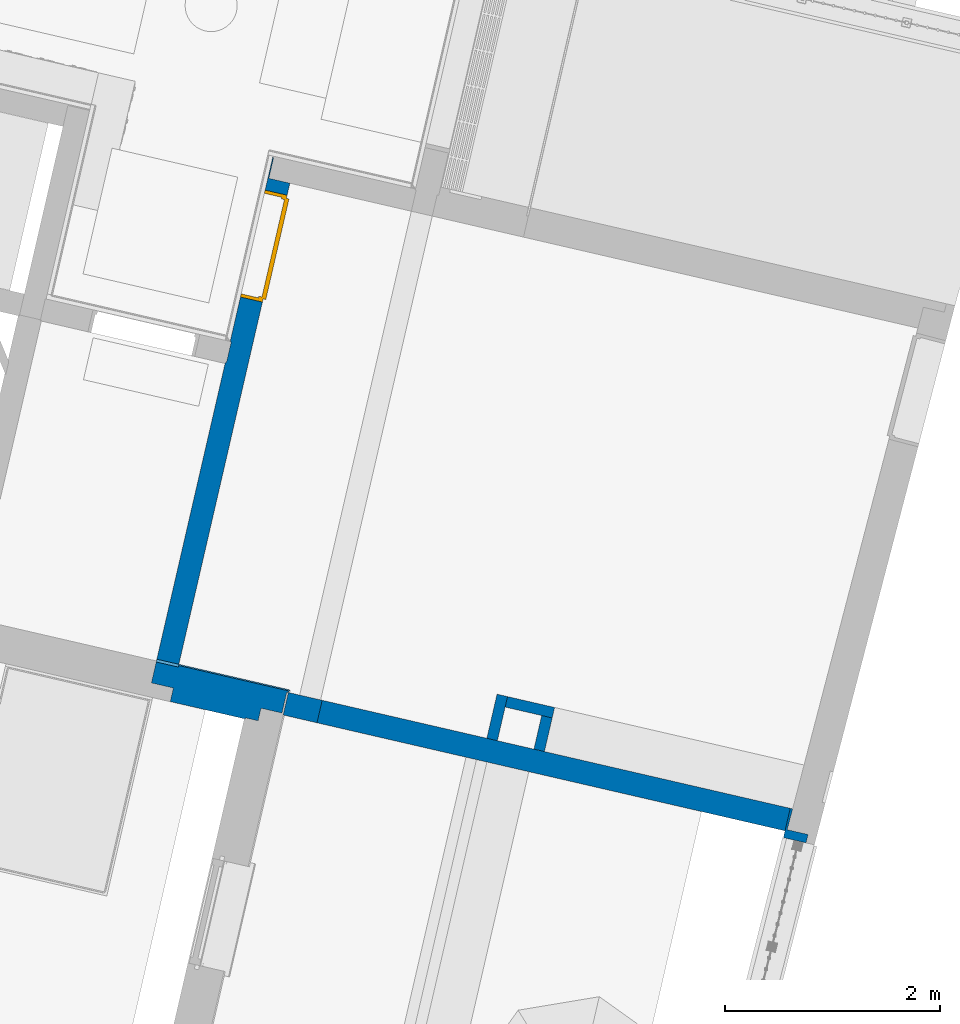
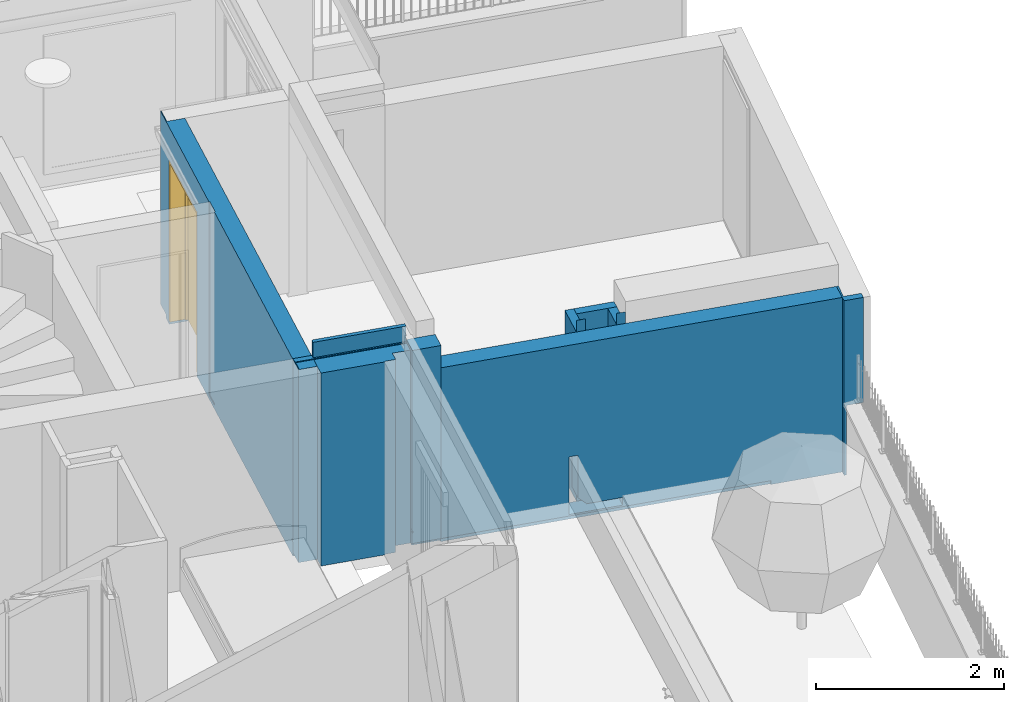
# One storey, part 55 of 119: 8 walls, 1 door, 1 opening.
"""IFC2X3 building model written with IfcOpenShell, lengths in metres."""

from ifc_helpers import new_model, entity, si_unit, converted_unit, derived_unit, money_unit, direction, frame, origin_with_axes, place, context, subcontext, project, spatial, faceted_brep, material, material_list, type_object, element, fill, save


model = new_model("IFC2X3")

# Units and contexts
model_context = context("Model", 3, precision=1e-05, world=origin_with_axes(), true_north=direction((0.0, 1.0)))
body_context = subcontext(model_context, "Body", "Model", "MODEL_VIEW")
ifc_project = project(units=[si_unit("LENGTHUNIT", "METRE"), si_unit("AREAUNIT", "SQUARE_METRE"), si_unit("VOLUMEUNIT", "CUBIC_METRE"), converted_unit("PLANEANGLEUNIT", "DEGREE", entity("IfcPlaneAngleMeasure", 0.0174532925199), si_unit("PLANEANGLEUNIT", "RADIAN"), dimensions=[0, 0, 0, 0, 0, 0, 0]), si_unit("SOLIDANGLEUNIT", "STERADIAN"), money_unit("EUR"), converted_unit("TIMEUNIT", "Year", entity("IfcTimeMeasure", 31556926.0), si_unit("TIMEUNIT", "SECOND"), dimensions=[0, 0, 1, 0, 0, 0, 0]), si_unit("MASSUNIT", "GRAM", prefix="KILO"), si_unit("THERMODYNAMICTEMPERATUREUNIT", "DEGREE_CELSIUS"), si_unit("LUMINOUSINTENSITYUNIT", "LUMEN"), si_unit("ENERGYUNIT", "JOULE", prefix="MEGA"), derived_unit("THERMALCONDUCTANCEUNIT", [(si_unit("POWERUNIT", "WATT"), 1), (si_unit("LENGTHUNIT", "METRE"), -1), (si_unit("THERMODYNAMICTEMPERATUREUNIT", "KELVIN"), -1)]), derived_unit("SPECIFICHEATCAPACITYUNIT", [(si_unit("ENERGYUNIT", "JOULE"), 1), (si_unit("MASSUNIT", "GRAM", prefix="KILO"), -1), (si_unit("THERMODYNAMICTEMPERATUREUNIT", "KELVIN"), -1)]), derived_unit("MASSDENSITYUNIT", [(si_unit("MASSUNIT", "GRAM", prefix="KILO"), 1), (si_unit("VOLUMEUNIT", "CUBIC_METRE"), -1)])], contexts=[model_context])

# Site, building, storey
site_placement = place(None, origin_with_axes())
site = spatial("IfcSite", under=ifc_project, at=site_placement, Name="Site", CompositionType="ELEMENT")
building_placement = place(site_placement, origin_with_axes())
building = spatial("IfcBuilding", under=site, at=building_placement, Name="Bâtiment", CompositionType="ELEMENT")
storey_placement = place(building_placement, origin_with_axes())
storey = spatial("IfcBuildingStorey", under=building, at=storey_placement, Name="Rez-de-chaussée", CompositionType="ELEMENT", Elevation=0.0)

# Walls
ifc_material_1 = material(Name="Parpaing 10cm")
wall_type_1 = type_object("IfcWallType", Name="Parpaing 10cm 100", PredefinedType="USERDEFINED")
wall_1_placement = place(storey_placement, frame((-3.51931623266, -10.7568452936, 0.0), z_axis=(0.0, 0.0, 1.0), x_axis=(0.224876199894, 0.974387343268, 0.0)))
element("IfcWall", 1, at=wall_1_placement, inside=storey, type_object=wall_type_1, material=ifc_material_1, Name="Parpaing 10x50x20", ObjectType="PARTITIONING", context=body_context, shape_type="Brep", body=[
    faceted_brep([(0.214999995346, -0.1, 2.37), (0.215000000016, -0.1, 0.02), (0.636364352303, -0.1, 0.02), (0.636364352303, -0.1, 2.22), (0.215343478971, -0.1, 2.22), (0.215343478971, -0.1, 2.37), (0.214999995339, 0.0, 2.37), (0.215000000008, 0.0, 0.02), (0.636364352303, 0.0, 0.02), (0.636364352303, 0.0, 2.22), (0.215323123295, 0.0, 2.22), (0.215323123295, 0.0, 2.37)], [[[0, 1, 2, 3, 4, 5]], [[6, 7, 1, 0]], [[7, 8, 2, 1]], [[3, 2, 8, 9]], [[10, 4, 3, 9]], [[10, 11, 5, 4]], [[0, 5, 11, 6]], [[9, 8, 7, 6, 11, 10]]]),
])
wall_2_placement = place(storey_placement, frame((-3.37621303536, -10.136779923, 0.0), z_axis=(0.0, 0.0, 1.0), x_axis=(0.974387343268, -0.224876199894, 0.0)))
element("IfcWall", 2, at=wall_2_placement, inside=storey, type_object=wall_type_1, material=ifc_material_1, Name="Parpaing 10x50x20", ObjectType="PARTITIONING", context=body_context, shape_type="Brep", body=[
    faceted_brep([(0.549427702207, -0.1, 2.22), (0.549427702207, -0.1, 0.02), (0.549427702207, 0.0, 0.02), (0.549427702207, 0.0, 2.22), (0.1, -0.1, 2.22), (0.1, -0.1, 0.02), (0.1, 0.0, 0.02), (0.1, 0.0, 2.22)], [[[0, 1, 2, 3]], [[4, 5, 1, 0]], [[5, 6, 2, 1]], [[3, 2, 6, 7]], [[4, 0, 3, 7]], [[7, 6, 5, 4]]]),
])
wall_3_placement = place(storey_placement, frame((-2.84085763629, -10.2603331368, 0.0), z_axis=(0.0, 0.0, 1.0), x_axis=(-0.224876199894, -0.974387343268, 0.0)))
element("IfcWall", 3, at=wall_3_placement, inside=storey, type_object=wall_type_1, material=ifc_material_1, Name="Parpaing 10x50x20", ObjectType="PARTITIONING", context=body_context, shape_type="Brep", body=[
    faceted_brep([(0.421022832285, 0.0, 2.37), (0.421022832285, 0.0, 0.02), (0.1, 0.0, 0.02), (0.1, 0.0, 2.22), (0.42092938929, 0.0, 2.22), (0.42092938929, 0.0, 2.37), (0.421022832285, -0.1, 2.37), (0.421022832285, -0.1, 0.02), (0.1, -0.1, 0.02), (0.1, -0.1, 2.22), (0.420949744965, -0.1, 2.22), (0.420949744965, -0.1, 2.37)], [[[0, 1, 2, 3, 4, 5]], [[6, 7, 1, 0]], [[7, 8, 2, 1]], [[3, 2, 8, 9]], [[10, 4, 3, 9]], [[10, 11, 5, 4]], [[0, 5, 11, 6]], [[9, 8, 7, 6, 11, 10]]]),
])
ifc_material_2 = material(Name="Finition int - Plaque de plâtre")
ifc_material_3 = material(Name="Isolation - Polystyrène extrudé")
ifc_material_4 = material(Name="Bloc ELITHERM")
ifc_material_5 = material(Name="Mortier")
ifc_material_6 = material(Name="Béton cellulaire")
ifc_material_7 = material(Name="Etanchéité - Bitume")
ifc_material_8 = material(Name="Finition ext - Crépis")
ifc_material_9 = material(Name="Métal - Aluminium")
ifc_material_list_1 = material_list([ifc_material_2, ifc_material_3, ifc_material_4, ifc_material_5, ifc_material_6, ifc_material_7, ifc_material_8, ifc_material_9])
wall_type_2 = type_object("IfcWallType", Name="Mur ALKERN + planelle 21 TERRASSE RDC 356 x 2720", PredefinedType="USERDEFINED")
wall_4_placement = place(storey_placement, frame((-5.29603734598, -10.0953606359, 0.0), z_axis=(0.0, 0.0, 1.0), x_axis=(-0.974387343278, 0.224876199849, 0.0)))
element("IfcWall", 4, at=wall_4_placement, inside=storey, type_object=wall_type_2, material=ifc_material_list_1, Name="Mue bloc ALKERN isolé", ObjectType="SOLIDWALL", context=body_context, shape_type="Brep", body=[
    faceted_brep([(1.06699998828, 0.350000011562, 0.176532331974), (1.06699998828, 0.350000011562, 0.207793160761), (1.06699998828, 0.350000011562, 2.50955), (0.35000001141, 0.350000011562, 2.50955001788), (0.35000001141, 0.350000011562, 0.207793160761), (0.35000001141, 0.350000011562, 0.176532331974), (0.35000001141, 0.350000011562, 0.169414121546), (0.35000001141, 0.350000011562, 0.160000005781), (0.35000001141, 0.350000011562, 0.133633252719), (0.35000001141, 0.350000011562, 0.0), (1.06699998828, 0.350000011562, 0.0), (1.06699998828, 0.350000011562, 0.133633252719), (1.06699998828, 0.350000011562, 0.160000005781), (1.06699998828, 0.350000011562, 0.169414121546), (1.06699998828, 0.359999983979, 0.176532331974), (1.06699998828, 0.359999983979, 0.207793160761), (1.06699998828, 0.359999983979, 2.50955), (0.350000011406, 0.359999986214, 2.50955001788), (0.350000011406, 0.359999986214, 0.207793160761), (0.350000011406, 0.359999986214, 0.176532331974), (0.350000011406, 0.359999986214, 0.169414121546), (0.350000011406, 0.359999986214, 0.160000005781), (0.350000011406, 0.359999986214, 0.133633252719), (0.350000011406, 0.359999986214, 0.0), (1.06699998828, 0.359999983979, 0.0), (1.06699998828, 0.359999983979, 0.133633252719), (1.06699998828, 0.359999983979, 0.160000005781), (1.06699998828, 0.359999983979, 0.169414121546)], [[[0, 1, 2, 3, 4, 5, 6, 7, 8, 9, 10, 11, 12, 13]], [[14, 15, 1, 0]], [[15, 16, 2, 1]], [[3, 2, 16, 17]], [[3, 17, 18, 4]], [[18, 19, 5, 4]], [[5, 19, 20, 6]], [[21, 7, 6, 20]], [[21, 22, 8, 7]], [[9, 8, 22, 23]], [[9, 23, 24, 10]], [[11, 10, 24, 25]], [[25, 26, 12, 11]], [[27, 13, 12, 26]], [[13, 27, 14, 0]], [[17, 16, 15, 14, 27, 26, 25, 24, 23, 22, 21, 20, 19, 18]]]),
    faceted_brep([(1.06699998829, 0.22999997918, 0.176532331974), (1.06699998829, 0.22999997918, 0.207793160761), (1.06699998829, 0.22999997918, 2.50955), (0.22999999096, 0.22999997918, 2.50955001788), (0.22999999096, 0.22999997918, 0.207793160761), (0.22999999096, 0.22999997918, 0.176532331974), (0.22999999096, 0.22999997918, 0.169414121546), (0.22999999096, 0.22999997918, 0.160000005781), (0.22999999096, 0.22999997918, 0.133633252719), (0.22999999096, 0.22999997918, 0.0), (1.06699998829, 0.22999997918, 0.0), (1.06699998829, 0.22999997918, 0.133633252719), (1.06699998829, 0.22999997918, 0.160000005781), (1.06699998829, 0.22999997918, 0.169414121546), (1.06699998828, 0.350000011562, 0.176532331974), (1.06699998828, 0.350000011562, 0.207793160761), (1.06699998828, 0.350000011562, 2.50955), (0.229999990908, 0.350000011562, 2.50955001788), (0.229999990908, 0.350000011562, 0.207793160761), (0.229999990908, 0.350000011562, 0.176532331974), (0.229999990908, 0.350000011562, 0.169414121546), (0.229999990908, 0.350000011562, 0.160000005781), (0.229999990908, 0.350000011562, 0.133633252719), (0.229999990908, 0.350000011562, 0.0), (1.06699998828, 0.350000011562, 0.0), (1.06699998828, 0.350000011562, 0.133633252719), (1.06699998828, 0.350000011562, 0.160000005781), (1.06699998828, 0.350000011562, 0.169414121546)], [[[0, 1, 2, 3, 4, 5, 6, 7, 8, 9, 10, 11, 12, 13]], [[14, 15, 1, 0]], [[15, 16, 2, 1]], [[3, 2, 16, 17]], [[3, 17, 18, 4]], [[18, 19, 5, 4]], [[19, 20, 6, 5]], [[6, 20, 21, 7]], [[7, 21, 22, 8]], [[9, 8, 22, 23]], [[23, 24, 10, 9]], [[11, 10, 24, 25]], [[11, 25, 26, 12]], [[12, 26, 27, 13]], [[27, 14, 0, 13]], [[17, 16, 15, 14, 27, 26, 25, 24, 23, 22, 21, 20, 19, 18]]]),
    faceted_brep([(1.2769999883, 0.0979999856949, 2.50955001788), (0.0299999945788, 0.0979999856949, 2.50955), (0.0299999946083, 0.03, 2.50955), (1.2769999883, 0.03, 2.50955001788), (1.27699998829, 0.229999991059, 2.50955001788), (0.0299999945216, 0.229999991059, 2.50955), (0.0300000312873, 0.0310453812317, 0.207793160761), (0.0300000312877, 0.03, 0.207793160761), (0.030000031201, 0.229999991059, 0.207793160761), (1.2769999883, 0.03, 0.207793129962), (1.2769999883, 0.03, 0.0), (1.27699998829, 0.229999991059, 0.0), (1.2769999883, 0.0310453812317, 0.207793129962), (1.2769999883, 0.0310453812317, 0.169727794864), (1.2769999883, 0.03, 0.169414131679), (1.2769999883, 0.0300000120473, 0.160000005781), (0.0310453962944, 0.229999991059, 0.207793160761), (0.0300000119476, 0.229999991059, 0.0), (0.0300000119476, 0.229999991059, 0.133633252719), (0.0300000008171, 0.229999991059, 0.160000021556), (0.0299999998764, 0.229999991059, 0.169414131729), (0.0310453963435, 0.229999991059, 0.169727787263), (0.0310453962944, 0.229999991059, 0.176532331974), (0.0310453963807, 0.0310453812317, 0.207793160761), (0.0300000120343, 0.03, 0.0), (0.0310453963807, 0.0310453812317, 0.176532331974), (0.0310453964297, 0.0310453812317, 0.169727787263), (0.0299999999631, 0.03, 0.169414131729), (0.0300000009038, 0.0300000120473, 0.160000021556), (0.0300000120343, 0.03, 0.133633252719)], [[[0, 1, 2, 3]], [[4, 5, 1, 0]], [[6, 7, 2, 1, 5, 8]], [[3, 2, 7, 9]], [[10, 11, 4, 0, 3, 9, 12, 13, 14, 15]], [[16, 8, 5, 4, 11, 17, 18, 19, 20, 21, 22]], [[9, 7, 6, 23, 12]], [[23, 6, 8, 16]], [[11, 10, 24, 17]], [[13, 12, 23, 25, 26]], [[26, 27, 14, 13]], [[14, 27, 28, 15]], [[10, 15, 28, 29, 24]], [[18, 17, 24, 29]], [[29, 28, 19, 18]], [[27, 20, 19, 28]], [[20, 27, 26, 21]], [[21, 26, 25, 22]], [[16, 22, 25, 23]]]),
    faceted_brep([(0.0299999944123, 0.098, 2.51999999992), (0.0299999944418, 0.03, 2.51999999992), (1.2769999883, 0.03, 2.52), (1.2769999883, 0.098, 2.52), (0.0299999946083, 0.03, 2.50955), (0.0299999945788, 0.098, 2.50955), (1.2769999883, 0.03, 2.50955), (1.2769999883, 0.098, 2.50955)], [[[0, 1, 2, 3]], [[4, 1, 0, 5]], [[1, 4, 6, 2]], [[7, 3, 2, 6]], [[5, 0, 3, 7]], [[4, 5, 7, 6]]]),
    faceted_brep([(0.0299999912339, 0.0780000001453, 2.72), (0.0299999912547, 0.03, 2.72), (1.0669999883, 0.03, 2.72000000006), (1.0669999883, 0.0780000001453, 2.72000000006), (0.0299999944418, 0.03, 2.51999999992), (0.029999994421, 0.0780000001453, 2.51999999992), (1.0669999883, 0.03, 2.52), (1.0669999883, 0.0780000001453, 2.52)], [[[0, 1, 2, 3]], [[4, 1, 0, 5]], [[1, 4, 6, 2]], [[7, 3, 2, 6]], [[5, 0, 3, 7]], [[4, 5, 7, 6]]]),
    faceted_brep([(0.0199999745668, 0.029999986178, 0.005), (0.0199999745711, 0.02, 0.005), (0.0199999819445, 0.02, 0.133633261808), (0.0199999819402, 0.0300000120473, 0.133633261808), (1.0669999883, 0.02, 0.005), (1.0669999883, 0.0299999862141, 0.005), (1.06699998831, 0.02, 0.133633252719), (1.26699998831, 0.02, 0.133633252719), (1.27699998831, 0.02, 0.133633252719), (1.27699998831, 0.02, 0.160000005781), (0.0199999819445, 0.02, 0.160000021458), (0.0199999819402, 0.0300000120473, 0.160000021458), (1.2769999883, 0.0300000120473, 0.160000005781), (1.2769999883, 0.0300000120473, 0.133633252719), (1.2669999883, 0.0300000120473, 0.133633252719), (1.0669999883, 0.0300000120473, 0.133633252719)], [[[0, 1, 2, 3]], [[4, 1, 0, 5]], [[1, 4, 6, 7, 8, 9, 10, 2]], [[3, 2, 10, 11]], [[5, 0, 3, 11, 12, 13, 14, 15]], [[4, 5, 15, 6]], [[14, 7, 6, 15]], [[8, 7, 14, 13]], [[9, 8, 13, 12]], [[12, 11, 10, 9]]]),
    faceted_brep([(1.06699998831, 0.0149999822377, 2.51), (0.0150000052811, 0.0150000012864, 2.51), (0.0150000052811, 0.0150000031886, 0.176532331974), (1.06699998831, 0.0150000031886, 0.176532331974), (0.0150000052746, 0.0299999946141, 2.51), (1.0669999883, 0.0299999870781, 2.51), (0.0150000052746, 0.0300000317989, 0.176532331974), (1.0669999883, 0.0300000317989, 0.176532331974)], [[[0, 1, 2, 3]], [[4, 1, 0, 5]], [[1, 4, 6, 2]], [[6, 7, 3, 2]], [[5, 0, 3, 7]], [[4, 5, 7, 6]]]),
    faceted_brep([(0.0300000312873, 0.0310453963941, 0.207793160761), (0.0300000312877, 0.03, 0.207793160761), (1.2769999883, 0.03, 0.207793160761), (1.2769999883, 0.0310453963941, 0.207793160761), (0.0300000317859, 0.0300000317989, 0.176532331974), (0.0300000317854, 0.0310453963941, 0.176532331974), (1.2769999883, 0.0300000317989, 0.176532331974), (1.2769999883, 0.03, 0.170774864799), (1.27699998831, 0.0035607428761, 0.162931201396), (1.27699998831, 0.0035607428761, 0.133633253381), (1.27699998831, 0.00479482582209, 0.133633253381), (1.27699998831, 0.00479482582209, 0.161852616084), (1.2769999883, 0.03, 0.169414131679), (1.2769999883, 0.0310453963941, 0.169727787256), (0.0264704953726, 0.0310453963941, 0.169727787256), (0.0299999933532, 0.0310453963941, 0.170774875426), (0.0299999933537, 0.03, 0.170774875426), (0.00356072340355, 0.0035607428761, 0.162931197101), (0.00356072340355, 0.0035607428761, 0.133633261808), (0.00356072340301, 0.00479482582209, 0.133633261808), (0.00356072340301, 0.00479482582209, 0.161852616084), (0.0254132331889, 0.03, 0.169414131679), (0.00356072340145, 0.00839011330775, 0.162931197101)], [[[0, 1, 2, 3]], [[4, 1, 0, 5]], [[1, 4, 6, 2]], [[6, 7, 8, 9, 10, 11, 12, 13, 3, 2]], [[5, 0, 3, 13, 14, 15]], [[4, 5, 15, 16]], [[16, 7, 6, 4]], [[17, 8, 7, 16]], [[18, 9, 8, 17]], [[19, 10, 9, 18]], [[20, 11, 10, 19]], [[21, 12, 11, 20, 22]], [[14, 13, 12, 21]], [[22, 17, 16, 15, 14, 21]], [[19, 18, 17, 22, 20]]]),
])

# Wall, opening, door
ifc_material_10 = material(Name="Béton")
ifc_material_11 = material(Name="Finition int - Enduit plâtre")
ifc_material_list_2 = material_list([ifc_material_10, ifc_material_11])
wall_type_3 = type_object("IfcWallType", Name="2 - Murs Béton 20 + Enduit 1 Face  210", PredefinedType="USERDEFINED")
wall_5_placement = place(storey_placement, frame((-5.30352687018, -5.382979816, -0.05), z_axis=(0.0, 0.0, 1.0), x_axis=(-0.224876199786, -0.974387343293, 0.0)))
wall_5 = element("IfcWall", 5, at=wall_5_placement, inside=storey, type_object=wall_type_3, material=ifc_material_list_2, Name="M_Ext-009", ObjectType="SOLIDWALL", context=body_context, shape_type="Brep", body=[
    faceted_brep([(4.81999999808, -0.2, 2.55955001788), (4.81999999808, -0.2, 2.56), (4.68800001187, -0.2, 2.56), (4.68800001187, -0.2, 2.55955), (4.8199999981, 0.0, 2.55955001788), (4.8199999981, 0.0, 2.56), (4.68800001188, 0.0, 2.56), (4.68800001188, 0.0, 2.55955)], [[[0, 1, 2, 3]], [[1, 0, 4, 5]], [[2, 1, 5, 6]], [[2, 6, 7, 3]], [[0, 3, 7, 4]], [[5, 4, 7, 6]]]),
    faceted_brep([(1.13525391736, 1.13612674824e-09, 0.055), (1.13525391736, -2.3956818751e-09, 2.135), (0.115253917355, -2.97208480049e-09, 2.135), (0.115253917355, 0.0, 0.055), (0.115253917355, 0.0, 0.0), (0.0, 0.0, 0.0), (0.0, 0.0, 0.05), (0.0, 0.0, 2.56), (4.62000001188, 0.0, 2.56), (4.62000001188, 0.0, 2.55955), (4.62000001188, 0.0, 0.257793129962), (4.62000004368, 0.0, 0.226532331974), (4.62000001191, 0.0, 0.22077486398), (4.61541324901, 0.0, 0.219414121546), (4.59356075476, 0.0, 0.212931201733), (4.59356075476, 0.0, 0.210000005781), (4.59356075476, 0.0, 0.183633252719), (4.59479485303, 0.0, 0.183633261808), (4.61000001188, 0.0, 0.183633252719), (4.62000002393, 0.0, 0.183633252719), (4.62000001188, 0.0, 0.05), (4.61946847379, 2.68553377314e-07, 0.05), (4.6194685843, 0.0, 0.0), (1.13525391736, 1.13612630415e-09, 0.0), (1.13525391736, -0.2, 0.055), (1.13525391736, -0.2, 2.135), (0.115253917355, -0.2, 2.135), (0.115253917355, -0.2, 0.055), (0.11525391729, -0.2, 0.0), (0.0, -0.2, 0.0), (0.0, -0.2, 0.05), (0.0, -0.2, 2.56), (4.62000001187, -0.2, 2.56), (4.62000001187, -0.2, 2.55955), (4.62000001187, -0.2, 0.257793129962), (4.62000004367, -0.2, 0.226532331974), (4.6200000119, -0.2, 0.22077486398), (4.615413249, -0.2, 0.219414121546), (4.59356075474, -0.2, 0.212931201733), (4.59356075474, -0.2, 0.210000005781), (4.59356075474, -0.2, 0.183633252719), (4.59479485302, -0.2, 0.183633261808), (4.61000001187, -0.2, 0.183633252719), (4.62000002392, -0.2, 0.183633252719), (4.62000001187, -0.2, 0.05), (4.62000001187, -0.168800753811, 0.05), (4.62000001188, -0.00129151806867, 0.05), (4.61999999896, -0.00129148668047, 0.0), (1.13525391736, -0.2, 0.0), (4.61999999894, -0.168821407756, 0.0), (4.61998046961, -0.2, 0.0), (4.61998046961, -0.2, 0.05)], [[[0, 1, 2, 3, 4, 5, 6, 7, 8, 9, 10, 11, 12, 13, 14, 15, 16, 17, 18, 19, 20, 21, 22, 23]], [[1, 0, 24, 25]], [[2, 1, 25, 26]], [[3, 2, 26, 27]], [[3, 27, 28, 4]], [[28, 29, 5, 4]], [[29, 30, 6, 5]], [[30, 31, 7, 6]], [[8, 7, 31, 32]], [[8, 32, 33, 9]], [[9, 33, 34, 10]], [[11, 10, 34, 35]], [[35, 36, 12, 11]], [[36, 37, 13, 12]], [[38, 14, 13, 37]], [[39, 15, 14, 38]], [[40, 16, 15, 39]], [[41, 17, 16, 40]], [[42, 18, 17, 41]], [[43, 19, 18, 42]], [[19, 43, 44, 45, 46, 20]], [[20, 46, 21]], [[47, 22, 21, 46]], [[48, 23, 22, 47, 49, 50]], [[24, 0, 23, 48]], [[25, 24, 48, 50, 51, 44, 43, 42, 41, 40, 39, 38, 37, 36, 35, 34, 33, 32, 31, 30, 29, 28, 27, 26]], [[45, 44, 51]], [[47, 46, 45, 49]], [[45, 51, 50, 49]]]),
    faceted_brep([(1.13525391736, -0.2, 0.07), (1.13525391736, -0.2, 2.135), (0.115253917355, -0.2, 2.135), (0.115253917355, -0.2, 0.07), (0.11525391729, -0.2, 0.0), (0.0, -0.2, 0.0), (0.0, -0.2, 0.0500000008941), (-0.199999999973, -0.2, 0.05), (-0.199999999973, -0.2, 2.56), (1.5600000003, -0.2, 2.56), (1.5600000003, -0.2, 0.05), (1.7600000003, -0.2, 0.05), (1.7600000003, -0.2, 2.56), (4.62000001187, -0.2, 2.56), (4.62000001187, -0.2, 2.55955), (4.62000001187, -0.2, 0.257793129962), (4.62000004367, -0.2, 0.226532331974), (4.6200000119, -0.2, 0.22077486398), (4.615413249, -0.2, 0.219414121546), (4.59356075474, -0.2, 0.212931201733), (4.59356075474, -0.2, 0.210000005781), (4.59356075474, -0.2, 0.183633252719), (4.59479485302, -0.2, 0.183633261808), (4.61000001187, -0.2, 0.183633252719), (4.62000002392, -0.2, 0.183633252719), (4.62000001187, -0.2, 0.05), (4.61998046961, -0.2, 0.05), (4.61998046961, -0.2, 0.0), (1.13525391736, -0.2, 0.0), (1.13525391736, -0.21, 0.07), (1.13525391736, -0.21, 2.135), (0.115253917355, -0.21, 2.135), (0.115253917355, -0.210000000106, 0.07), (0.115253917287, -0.210000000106, 0.0), (0.0, -0.21, 0.0), (0.0, -0.21, 0.0500000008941), (-0.199999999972, -0.21, 0.05), (-0.199999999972, -0.21, 2.56), (1.5600000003, -0.21, 2.56), (1.5600000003, -0.21, 0.05), (1.7600000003, -0.21, 0.05), (1.7600000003, -0.21, 2.56), (4.62000001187, -0.21, 2.56), (4.62000001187, -0.21, 2.55955), (4.62000001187, -0.21, 0.257793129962), (4.62000004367, -0.21, 0.226532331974), (4.6200000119, -0.21, 0.22077486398), (4.615413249, -0.21, 0.219414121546), (4.59356075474, -0.21, 0.212931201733), (4.59356075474, -0.21, 0.210000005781), (4.59356075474, -0.21, 0.183633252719), (4.59479485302, -0.21, 0.183633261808), (4.61000001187, -0.21, 0.183633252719), (4.62000002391, -0.21, 0.183633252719), (4.62000001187, -0.21, 0.05), (4.61997420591, -0.21, 0.05), (4.61997420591, -0.21, 0.0), (1.13525391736, -0.21, 0.0)], [[[0, 1, 2, 3, 4, 5, 6, 7, 8, 9, 10, 11, 12, 13, 14, 15, 16, 17, 18, 19, 20, 21, 22, 23, 24, 25, 26, 27, 28]], [[1, 0, 29, 30]], [[2, 1, 30, 31]], [[3, 2, 31, 32]], [[3, 32, 33, 4]], [[33, 34, 5, 4]], [[34, 35, 6, 5]], [[35, 36, 7, 6]], [[8, 7, 36, 37]], [[8, 37, 38, 9]], [[38, 39, 10, 9]], [[11, 10, 39, 40]], [[12, 11, 40, 41]], [[12, 41, 42, 13]], [[42, 43, 14, 13]], [[44, 15, 14, 43]], [[44, 45, 16, 15]], [[17, 16, 45, 46]], [[18, 17, 46, 47]], [[47, 48, 19, 18]], [[48, 49, 20, 19]], [[50, 21, 20, 49]], [[50, 51, 22, 21]], [[52, 23, 22, 51]], [[24, 23, 52, 53]], [[25, 24, 53, 54]], [[25, 54, 55, 26]], [[26, 55, 56, 27]], [[28, 27, 56, 57]], [[29, 0, 28, 57]], [[30, 29, 57, 56, 55, 54, 53, 52, 51, 50, 49, 48, 47, 46, 45, 44, 43, 42, 41, 40, 39, 38, 37, 36, 35, 34, 33, 32, 31]]]),
])
opening_placement = place(wall_5_placement, frame((0.625253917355, 0.0, 0.05), z_axis=(0.0, 0.0, 1.0), x_axis=(1.0, 0.0, 0.0)))
opening = element("IfcOpeningElement", 6, at=opening_placement, cuts=wall_5, Name="Porte 93x204 bois CF", context=body_context, shape_type="Brep", body=[
    faceted_brep([(-0.51, 0.21, 0.0), (0.51, 0.21, 0.0), (0.51, -0.21, 0.0), (-0.51, -0.21, 0.0), (-0.51, 0.21, 2.085), (0.51, 0.21, 2.085), (0.51, -0.21, 2.085), (-0.51, -0.21, 2.085)], [[[0, 1, 2, 3]], [[0, 4, 5, 1]], [[1, 5, 6, 2]], [[3, 2, 6, 7]], [[4, 0, 3, 7]], [[5, 4, 7, 6]]]),
])
door_style = type_object("IfcDoorStyle", Name="Porte int générique 2019", ConstructionType="NOTDEFINED", OperationType="SINGLE_SWING_LEFT", ParameterTakesPrecedence=False, Sizeable=False)
door_placement = place(opening_placement, frame((-0.465, 0.0, 0.0), z_axis=(0.0, 0.0, 1.0), x_axis=(1.0, 0.0, 0.0)))
door = element("IfcDoor", 7, at=door_placement, inside=storey, type_object=door_style, Name="Porte 93x204 bois CF", ObjectType="DOOR", OverallHeight=2.04, OverallWidth=0.93, context=body_context, shape_type="Brep", body=[
    faceted_brep([(-0.045, 0.0, 0.0), (-0.045, 0.0, 2.085), (0.975, 0.0, 2.085), (0.975, 0.0, 0.0), (0.945, 0.0, 0.0), (0.945, 0.0, 2.055), (-0.015, 0.0, 2.055), (-0.015, 0.0, 0.0), (-0.045, -0.21, 0.0), (-0.045, -0.21, 2.085), (0.975, -0.21, 2.085), (0.975, -0.21, 0.0), (0.945, -0.21, 0.0), (0.945, -0.045, 0.0), (0.93, -0.045, 0.0), (0.93, -0.015, 0.0), (0.945, -0.015, 0.0), (0.945, -0.015, 2.055), (-0.015, -0.015, 2.055), (-0.015, -0.015, 0.0), (0.0, -0.015, 0.0), (0.0, -0.045, 0.0), (-0.015, -0.045, 0.0), (-0.015, -0.21, 0.0), (-0.015, -0.21, 2.055), (0.945, -0.21, 2.055), (0.945, -0.045, 2.055), (0.0, -0.045, 2.04), (0.93, -0.045, 2.04), (-0.015, -0.045, 2.055), (0.93, -0.015, 2.04), (0.0, -0.015, 2.04)], [[[0, 1, 2, 3, 4, 5, 6, 7]], [[8, 9, 1, 0]], [[9, 10, 2, 1]], [[10, 11, 3, 2]], [[3, 11, 12, 13, 14, 15, 16, 4]], [[5, 4, 16, 17]], [[6, 5, 17, 18]], [[7, 6, 18, 19]], [[0, 7, 19, 20, 21, 22, 23, 8]], [[23, 24, 25, 12, 11, 10, 9, 8]], [[26, 13, 12, 25]], [[21, 27, 28, 14, 13, 26, 29, 22]], [[30, 15, 14, 28]], [[19, 18, 17, 16, 15, 30, 31, 20]], [[20, 31, 27, 21]], [[22, 29, 24, 23]], [[29, 26, 25, 24]], [[31, 30, 28, 27]]]),
    faceted_brep([(-0.015, 0.025, 0.0), (0.945, 0.025, 0.0), (0.945, -0.015, 0.0), (-0.015, -0.015, 0.0), (-0.015, 0.025, 2.055), (0.945, 0.025, 2.055), (0.945, -0.015, 2.055), (-0.015, -0.015, 2.055)], [[[0, 1, 2, 3]], [[0, 4, 5, 1]], [[1, 5, 6, 2]], [[3, 2, 6, 7]], [[4, 0, 3, 7]], [[5, 4, 7, 6]]]),
])
fill(opening, door)

# Walls
ifc_material_12 = material(Name="Parpaing 20cm")
ifc_material_list_3 = material_list([ifc_material_12, ifc_material_8])
wall_type_4 = type_object("IfcWallType", Name="1 - Mur PARPAING 20  + ravalement 1 face 215", PredefinedType="ELEMENTEDWALL")
wall_6_placement = place(storey_placement, frame((-5.05142815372, -10.4032533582, -0.05), z_axis=(0.0, 0.0, 1.0), x_axis=(0.974387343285, -0.224876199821, 0.0)))
element("IfcWall", 8, at=wall_6_placement, inside=storey, type_object=wall_type_4, material=ifc_material_list_3, Name="M_Ext-007", ObjectType="ELEMENTEDWALL", context=body_context, shape_type="Brep", body=[
    faceted_brep([(0.0, 0.015, 2.27), (0.0, 0.015, 0.0), (4.46867022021, 0.015, 0.0), (4.46867022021, 0.015, 2.27), (1.5224181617, 0.015, 0.82), (1.5224181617, 0.015, 0.27), (1.6224181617, 0.015, 0.17), (2.0224181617, 0.015, 0.17), (2.0224181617, 0.015, 0.07), (1.4224181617, 0.015, 0.07), (1.4224181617, 0.015, 0.82), (0.0, 0.215, 2.27), (0.0, 0.215, 0.0), (4.46867022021, 0.215, 0.0), (4.46867022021, 0.215, 2.27), (1.52241816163, 0.215, 0.82), (1.52241816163, 0.215, 0.27), (1.62241816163, 0.215, 0.17), (2.02241816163, 0.215, 0.17), (2.02241816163, 0.215, 0.07), (1.42241816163, 0.215, 0.07), (1.42241816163, 0.215, 0.82)], [[[0, 1, 2, 3], [4, 5, 6, 7, 8, 9, 10]], [[0, 11, 12, 1]], [[1, 12, 13, 2]], [[3, 2, 13, 14]], [[11, 0, 3, 14]], [[4, 15, 16, 5]], [[5, 16, 17, 6]], [[6, 17, 18, 7]], [[7, 18, 19, 8]], [[8, 19, 20, 9]], [[9, 20, 21, 10]], [[10, 21, 15, 4]], [[12, 11, 14, 13], [21, 20, 19, 18, 17, 16, 15]]]),
    faceted_brep([(3.67228382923, 0.0150000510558, 0.05), (0.0, 0.0150070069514, 0.05), (0.0, 0.015, 2.27), (4.46867022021, 0.015, 2.27), (4.46867022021, 0.015, 0.0), (3.67228382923, 0.0150000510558, 0.0), (1.4224181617, 0.015, 0.82), (1.4224181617, 0.015, 0.07), (2.0224181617, 0.015, 0.07), (2.0224181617, 0.015, 0.17), (1.6224181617, 0.015, 0.17), (1.5224181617, 0.015, 0.27), (1.5224181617, 0.015, 0.82), (3.67228397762, 0.0, 0.05), (0.0, 0.0, 0.05), (0.0, 0.0, 2.27), (4.46867022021, 0.0, 2.27), (4.46867022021, 0.0, 0.0), (3.67228397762, 0.0, 0.0), (1.42241816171, 0.0, 0.07), (1.42241816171, 0.0, 0.82), (2.02241816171, 0.0, 0.07), (2.02241816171, 0.0, 0.17), (1.62241816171, 0.0, 0.17), (1.52241816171, 0.0, 0.27), (1.52241816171, 0.0, 0.82)], [[[0, 1, 2, 3, 4, 5], [6, 7, 8, 9, 10, 11, 12]], [[1, 0, 13, 14]], [[1, 14, 15, 2]], [[2, 15, 16, 3]], [[16, 17, 4, 3]], [[18, 5, 4, 17]], [[0, 5, 18, 13]], [[19, 7, 6, 20]], [[21, 8, 7, 19]], [[22, 9, 8, 21]], [[23, 10, 9, 22]], [[24, 11, 10, 23]], [[25, 12, 11, 24]], [[20, 6, 12, 25]], [[13, 18, 17, 16, 15, 14], [25, 24, 23, 22, 21, 19, 20]]]),
])
ifc_material_13 = material(Name="Pierre")
ifc_material_list_4 = material_list([ifc_material_10, ifc_material_13])
wall_type_5 = type_object("IfcWallType", Name="1 - Mur BETON 20+ PAREMENT PIERRE 280", PredefinedType="ELEMENTEDWALL")
wall_7_placement = place(storey_placement, frame((-0.711829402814, -11.4714861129, -0.05), z_axis=(0.0, 0.0, 1.0), x_axis=(0.974387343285, -0.224876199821, 0.0)))
element("IfcWall", 9, at=wall_7_placement, inside=storey, type_object=wall_type_5, material=ifc_material_list_4, Name="M_Ext-007", ObjectType="ELEMENTEDWALL", context=body_context, shape_type="Brep", body=[
    faceted_brep([(0.0, 0.08, 2.27), (0.0176399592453, 0.08, 2.27), (0.023256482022, 0.28, 2.27), (0.0, 0.28, 2.27), (0.0, 0.08, 0.0), (0.0176399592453, 0.08, 0.0), (0.023256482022, 0.28, 0.0), (0.0, 0.28, 0.0)], [[[0, 1, 2, 3]], [[4, 5, 1, 0]], [[5, 6, 2, 1]], [[3, 2, 6, 7]], [[4, 0, 3, 7]], [[7, 6, 5, 4]]]),
    faceted_brep([(0.215472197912, 0.0, 2.27), (0.215472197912, 0.0, 0.903898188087), (0.217718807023, 0.08, 0.903898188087), (0.217718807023, 0.08, 2.27), (0.0293268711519, 0.0, 0.903898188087), (0.0, 0.0, 2.27), (0.0, 0.0, 0.0), (0.0293268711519, 0.0, 0.0), (0.0311120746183, 0.08, 0.903898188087), (0.0311120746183, 0.08, 0.0), (0.0, 0.08, 0.0), (0.0, 0.08, 2.27)], [[[0, 1, 2, 3]], [[4, 1, 0, 5, 6, 7]], [[8, 2, 1, 4]], [[3, 2, 8, 9, 10, 11]], [[5, 0, 3, 11]], [[6, 5, 11, 10]], [[10, 9, 7, 6]], [[7, 9, 8, 4]]]),
])
wall_type_6 = type_object("IfcWallType", Name="1 - Mur PARPAING 20  + ravalement 1 face 215", PredefinedType="STANDARD")
wall_8_placement = place(storey_placement, frame((-5.36574781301, -10.3307123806, -0.03), z_axis=(0.0, 0.0, 1.0), x_axis=(0.974387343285, -0.224876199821, 0.0)))
element("IfcWall", 10, at=wall_8_placement, inside=storey, type_object=wall_type_6, material=ifc_material_list_3, Name="M_Ext-007", ObjectType="STANDARD", context=body_context, shape_type="Brep", body=[
    faceted_brep([(0.0114392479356, 0.215, 0.163633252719), (0.0114392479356, 0.215, 0.190000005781), (0.0114392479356, 0.215, 0.192931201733), (0.0, 0.215, 0.196324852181), (0.0, 0.215, 2.54), (0.322581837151, 0.215, 2.54), (0.322581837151, 0.215, 0.0), (0.0, 0.215, 0.0), (0.0, 0.215, 0.163633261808), (0.0102051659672, 0.215, 0.163633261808), (0.0114392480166, 0.015, 0.163633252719), (0.0114392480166, 0.015, 0.190000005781), (0.0114392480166, 0.015, 0.192931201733), (0.0, 0.015, 0.196324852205), (0.0, 0.015, 2.54), (0.322581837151, 0.015, 2.54), (0.322581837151, 0.015, 0.0), (0.0, 0.015, 0.0), (0.0, 0.015, 0.163633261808), (0.0102051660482, 0.015, 0.163633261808)], [[[0, 1, 2, 3, 4, 5, 6, 7, 8, 9]], [[0, 10, 11, 1]], [[11, 12, 2, 1]], [[12, 13, 3, 2]], [[14, 4, 3, 13]], [[5, 4, 14, 15]], [[5, 15, 16, 6]], [[16, 17, 7, 6]], [[7, 17, 18, 8]], [[8, 18, 19, 9]], [[10, 0, 9, 19]], [[14, 13, 12, 11, 10, 19, 18, 17, 16, 15]]]),
    faceted_brep([(0.322581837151, 0.0, 0.03), (0.322581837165, 0.0150070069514, 0.03), (0.322581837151, 0.015, 2.54), (0.322581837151, 0.0, 2.54), (0.0, 0.0150076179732, 0.03), (0.0, 0.0, 0.03), (0.0, 0.015, 0.163633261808), (0.0102051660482, 0.015, 0.163633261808), (0.0114392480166, 0.015, 0.163633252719), (0.0114392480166, 0.015, 0.190000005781), (0.0114392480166, 0.015, 0.192931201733), (0.0, 0.015, 0.196324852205), (0.0, 0.015, 2.54), (0.0, 0.0, 2.54), (0.0, 0.0, 0.196324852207), (0.0114392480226, 0.0, 0.192931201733), (0.0114392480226, 0.0, 0.190000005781), (0.0114392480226, 0.0, 0.163633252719), (0.0102051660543, 0.0, 0.163633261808), (0.0, 0.0, 0.163633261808)], [[[0, 1, 2, 3]], [[4, 1, 0, 5]], [[1, 4, 6, 7, 8, 9, 10, 11, 12, 2]], [[12, 13, 3, 2]], [[5, 0, 3, 13, 14, 15, 16, 17, 18, 19]], [[4, 5, 19, 6]], [[19, 18, 7, 6]], [[8, 7, 18, 17]], [[17, 16, 9, 8]], [[15, 10, 9, 16]], [[14, 11, 10, 15]], [[12, 11, 14, 13]]]),
])

save(model, "model.ifc")
